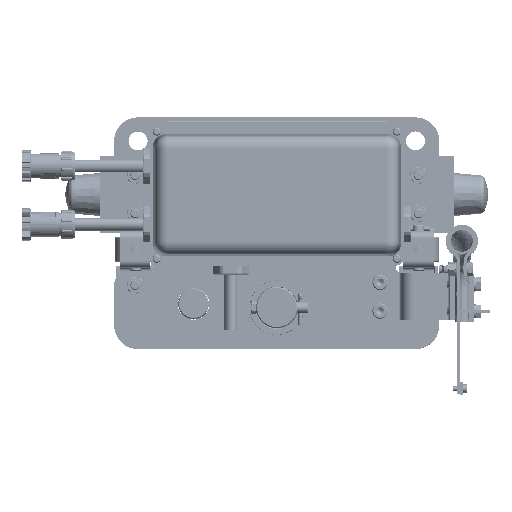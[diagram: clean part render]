
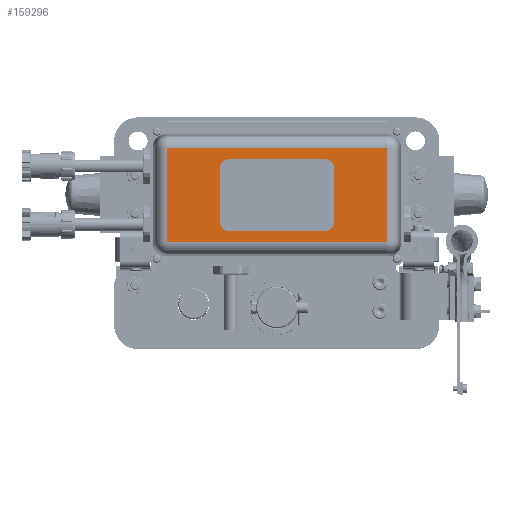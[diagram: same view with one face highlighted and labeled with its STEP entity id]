
A CAD part, top view. The second image highlights one B-rep face of the part: STEP entity #159296.
In plain terms, the highlighted planar face has unit normal (0, 0, 1) as drawn and (-1, 0, 0) by its records, which use the part's own axes.
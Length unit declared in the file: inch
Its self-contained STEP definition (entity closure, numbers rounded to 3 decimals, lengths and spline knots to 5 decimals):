
#1179 = AXIS2_PLACEMENT_3D ( 'NONE', #38235, #110020, #50904 ) ;
#29712 = CARTESIAN_POINT ( 'NONE',  ( -2.71654, -2.25031, 0.73446 ) ) ;
#30669 = LINE ( 'NONE', #29712, #171924 ) ;
#37271 = FACE_OUTER_BOUND ( 'NONE', #89236, .T. ) ;
#38235 = CARTESIAN_POINT ( 'NONE',  ( -2.71654, -2.25031, 10.47244 ) ) ;
#39137 = VERTEX_POINT ( 'NONE', #49375 ) ;
#45181 = VECTOR ( 'NONE', #111292, 39.37008 ) ;
#49375 = CARTESIAN_POINT ( 'NONE',  ( -2.71654, 0.98144, 0.73446 ) ) ;
#50904 = DIRECTION ( 'NONE',  ( 0., 0., 1. ) ) ;
#59457 = ORIENTED_EDGE ( 'NONE', *, *, #150953, .T. ) ;
#60612 = EDGE_CURVE ( 'NONE', #169303, #39137, #30669, .T. ) ;
#62852 = CARTESIAN_POINT ( 'NONE',  ( -2.71654, 0.98144, 10.47244 ) ) ;
#73463 = ORIENTED_EDGE ( 'NONE', *, *, #60612, .T. ) ;
#89021 = VECTOR ( 'NONE', #103395, 39.37008 ) ;
#89236 = EDGE_LOOP ( 'NONE', ( #99921, #59457, #156474, #73463 ) ) ;
#93545 = PLANE ( 'NONE',  #1179 ) ;
#95367 = VERTEX_POINT ( 'NONE', #145649 ) ;
#99921 = ORIENTED_EDGE ( 'NONE', *, *, #145701, .T. ) ;
#100197 = CARTESIAN_POINT ( 'NONE',  ( -2.71654, 5.33958, 9.75453 ) ) ;
#103395 = DIRECTION ( 'NONE',  ( 0., 0., -1. ) ) ;
#110020 = DIRECTION ( 'NONE',  ( -1., 0., 0. ) ) ;
#111292 = DIRECTION ( 'NONE',  ( 0., 0., 1. ) ) ;
#122698 = CARTESIAN_POINT ( 'NONE',  ( -2.71654, 4.84533, 10.47244 ) ) ;
#124351 = CARTESIAN_POINT ( 'NONE',  ( -2.71654, 4.84533, 9.75453 ) ) ;
#145649 = CARTESIAN_POINT ( 'NONE',  ( -2.71654, 0.98144, 9.75453 ) ) ;
#145701 = EDGE_CURVE ( 'NONE', #39137, #95367, #152033, .T. ) ;
#146196 = DIRECTION ( 'NONE',  ( 0., -1., 0. ) ) ;
#150953 = EDGE_CURVE ( 'NONE', #95367, #183352, #173961, .T. ) ;
#152033 = LINE ( 'NONE', #62852, #45181 ) ;
#153474 = CARTESIAN_POINT ( 'NONE',  ( -2.71654, 4.84533, 0.73446 ) ) ;
#156474 = ORIENTED_EDGE ( 'NONE', *, *, #172434, .T. ) ;
#157392 = VECTOR ( 'NONE', #159354, 39.37008 ) ;
#159296 = ADVANCED_FACE ( 'NONE', ( #37271 ), #93545, .T. ) ;
#159354 = DIRECTION ( 'NONE',  ( 0., 1., 0. ) ) ;
#169303 = VERTEX_POINT ( 'NONE', #153474 ) ;
#171924 = VECTOR ( 'NONE', #146196, 39.37008 ) ;
#172434 = EDGE_CURVE ( 'NONE', #183352, #169303, #178068, .T. ) ;
#173961 = LINE ( 'NONE', #100197, #157392 ) ;
#178068 = LINE ( 'NONE', #122698, #89021 ) ;
#183352 = VERTEX_POINT ( 'NONE', #124351 ) ;
